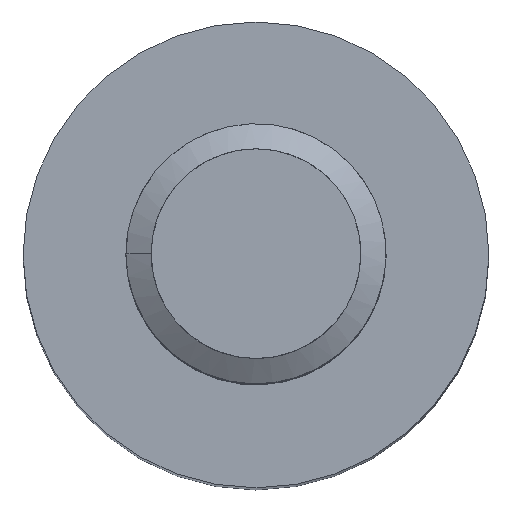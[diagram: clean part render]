
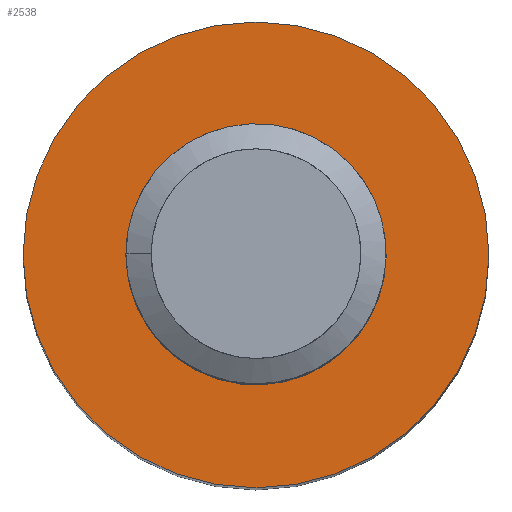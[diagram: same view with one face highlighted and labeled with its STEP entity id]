
A CAD part, top view. The second image highlights one B-rep face of the part: STEP entity #2538.
In plain terms, the highlighted planar face has unit normal (0, 0, 1).
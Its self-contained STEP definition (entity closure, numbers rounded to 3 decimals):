
#169 = CARTESIAN_POINT ( 'NONE',  ( -1.068, 2.579, 26.5 ) ) ;
#173 = CARTESIAN_POINT ( 'NONE',  ( 1.799, -1.383, 26.5 ) ) ;
#232 = CARTESIAN_POINT ( 'NONE',  ( 0.366, 2.629, 26.5 ) ) ;
#260 = CARTESIAN_POINT ( 'NONE',  ( 2.207, 0.83, 26.5 ) ) ;
#278 = CARTESIAN_POINT ( 'NONE',  ( -2.509, 1.238, 26.5 ) ) ;
#298 = ORIENTED_EDGE ( 'NONE', *, *, #2768, .F. ) ;
#299 = CARTESIAN_POINT ( 'NONE',  ( -2.628, -0.369, 26.5 ) ) ;
#314 = CARTESIAN_POINT ( 'NONE',  ( -1.586, -1.872, 26.5 ) ) ;
#376 = DIRECTION ( 'NONE',  ( 0., 0., 1. ) ) ;
#407 = CARTESIAN_POINT ( 'NONE',  ( -2.579, 1.068, 26.5 ) ) ;
#425 = CARTESIAN_POINT ( 'NONE',  ( 2.25, 0., 26.5 ) ) ;
#433 = VERTEX_POINT ( 'NONE', #169 ) ;
#473 = CARTESIAN_POINT ( 'NONE',  ( 2.191, -0.589, 26.5 ) ) ;
#516 = EDGE_CURVE ( 'NONE', #433, #3788, #1053, .T. ) ;
#527 = CARTESIAN_POINT ( 'NONE',  ( -2.421, 1.4, 26.5 ) ) ;
#536 = CARTESIAN_POINT ( 'NONE',  ( 2.274, 0.208, 26.5 ) ) ;
#558 = CARTESIAN_POINT ( 'NONE',  ( 0., -2.25, 26.5 ) ) ;
#559 = CARTESIAN_POINT ( 'NONE',  ( 1.128, 2.304, 26.5 ) ) ;
#561 = AXIS2_PLACEMENT_3D ( 'NONE', #1259, #652, #3660 ) ;
#581 = CARTESIAN_POINT ( 'NONE',  ( -1.704, 2.218, 26.5 ) ) ;
#589 = CARTESIAN_POINT ( 'NONE',  ( -0.415, -2.27, 26.5 ) ) ;
#599 = CARTESIAN_POINT ( 'NONE',  ( -2.695, 0.04, 26.5 ) ) ;
#620 = CARTESIAN_POINT ( 'NONE',  ( -1.068, 2.579, 26.5 ) ) ;
#625 = CARTESIAN_POINT ( 'NONE',  ( -1.907, -1.612, 26.5 ) ) ;
#652 = DIRECTION ( 'NONE',  ( 0., 0., 1. ) ) ;
#790 = CARTESIAN_POINT ( 'NONE',  ( 5., 0., 26.5 ) ) ;
#830 = CARTESIAN_POINT ( 'NONE',  ( -2.105, 1.842, 26.5 ) ) ;
#841 = CARTESIAN_POINT ( 'NONE',  ( -1.847, 2.101, 26.5 ) ) ;
#887 = CARTESIAN_POINT ( 'NONE',  ( -0.828, -2.208, 26.5 ) ) ;
#899 = VERTEX_POINT ( 'NONE', #407 ) ;
#1053 = B_SPLINE_CURVE_WITH_KNOTS ( 'NONE', 3,
 ( #2662, #2633, #3549, #3283, #3910, #232, #2943, #2064, #559, #3581, #2344, #1141, #3253, #3240, #260, #1455, #536, #1429 ),
 .UNSPECIFIED., .F., .F.,
 ( 4, 2, 2, 2, 2, 2, 2, 2, 4 ),
 ( 0., 0.001, 0.001, 0.002, 0.002, 0.003, 0.004, 0.004, 0.005 ),
 .UNSPECIFIED. ) ;
#1072 = CARTESIAN_POINT ( 'NONE',  ( 2.25, -0.295, 26.5 ) ) ;
#1083 = EDGE_LOOP ( 'NONE', ( #3649, #2563, #298, #3663 ) ) ;
#1128 = CARTESIAN_POINT ( 'NONE',  ( -2.22, 1.702, 26.5 ) ) ;
#1141 = CARTESIAN_POINT ( 'NONE',  ( 1.871, 1.588, 26.5 ) ) ;
#1230 = CARTESIAN_POINT ( 'NONE',  ( -2.571, -0.567, 26.5 ) ) ;
#1259 = CARTESIAN_POINT ( 'NONE',  ( 0., 0., 26.5 ) ) ;
#1314 = CIRCLE ( 'NONE', #561, 5. ) ;
#1318 = CARTESIAN_POINT ( 'NONE',  ( 0., 0., 26.5 ) ) ;
#1429 = CARTESIAN_POINT ( 'NONE',  ( 2.25, 0., 26.5 ) ) ;
#1436 = CARTESIAN_POINT ( 'NONE',  ( 0.589, -2.191, 26.5 ) ) ;
#1455 = CARTESIAN_POINT ( 'NONE',  ( 2.27, 0.418, 26.5 ) ) ;
#1459 = FACE_OUTER_BOUND ( 'NONE', #2197, .T. ) ;
#1510 = CARTESIAN_POINT ( 'NONE',  ( -2.407, -0.951, 26.5 ) ) ;
#1726 = CARTESIAN_POINT ( 'NONE',  ( 0., -2.25, 26.5 ) ) ;
#1728 = EDGE_CURVE ( 'NONE', #899, #433, #3465, .T. ) ;
#1739 = CARTESIAN_POINT ( 'NONE',  ( 1.133, -1.966, 26.5 ) ) ;
#1805 = CARTESIAN_POINT ( 'NONE',  ( -1.027, -2.15, 26.5 ) ) ;
#1842 = CARTESIAN_POINT ( 'NONE',  ( -2.639, 0.868, 26.5 ) ) ;
#1843 = DIRECTION ( 'NONE',  ( 1., 0., 0. ) ) ;
#1892 = CARTESIAN_POINT ( 'NONE',  ( -5., 0., 26.5 ) ) ;
#1944 = DIRECTION ( 'NONE',  ( 1., 0., 0. ) ) ;
#1977 = CARTESIAN_POINT ( 'NONE',  ( 1.383, -1.799, 26.5 ) ) ;
#1999 = VERTEX_POINT ( 'NONE', #790 ) ;
#2043 = CARTESIAN_POINT ( 'NONE',  ( 0., -2.25, 26.5 ) ) ;
#2064 = CARTESIAN_POINT ( 'NONE',  ( 0.949, 2.408, 26.5 ) ) ;
#2126 = CARTESIAN_POINT ( 'NONE',  ( -1.406, -1.982, 26.5 ) ) ;
#2145 = EDGE_CURVE ( 'NONE', #3504, #899, #2234, .T. ) ;
#2197 = EDGE_LOOP ( 'NONE', ( #3755, #3266 ) ) ;
#2234 = B_SPLINE_CURVE_WITH_KNOTS ( 'NONE', 3,
 ( #2043, #3859, #589, #887, #1805, #2126, #314, #625, #2448, #3045, #1510, #1230, #299, #599, #2741, #3031, #1842, #2704 ),
 .UNSPECIFIED., .F., .F.,
 ( 4, 2, 2, 2, 2, 2, 2, 2, 4 ),
 ( 0., 0.001, 0.001, 0.002, 0.002, 0.003, 0.004, 0.004, 0.005 ),
 .UNSPECIFIED. ) ;
#2294 = CARTESIAN_POINT ( 'NONE',  ( 1.966, -1.133, 26.5 ) ) ;
#2314 = B_SPLINE_CURVE_WITH_KNOTS ( 'NONE', 3,
 ( #1726, #3219, #1436, #1739, #1977, #173, #2294, #473, #1072, #3193 ),
 .UNSPECIFIED., .F., .F.,
 ( 4, 2, 2, 2, 4 ),
 ( 0.75, 0.812, 0.875, 0.937, 1. ),
 .UNSPECIFIED. ) ;
#2344 = CARTESIAN_POINT ( 'NONE',  ( 1.611, 1.908, 26.5 ) ) ;
#2345 = VERTEX_POINT ( 'NONE', #1892 ) ;
#2368 = FACE_BOUND ( 'NONE', #1083, .T. ) ;
#2448 = CARTESIAN_POINT ( 'NONE',  ( -2.054, -1.46, 26.5 ) ) ;
#2538 = ADVANCED_FACE ( 'NONE', ( #1459, #2368 ), #3136, .T. ) ;
#2563 = ORIENTED_EDGE ( 'NONE', *, *, #516, .T. ) ;
#2633 = CARTESIAN_POINT ( 'NONE',  ( -0.868, 2.639, 26.5 ) ) ;
#2638 = CARTESIAN_POINT ( 'NONE',  ( -1.399, 2.422, 26.5 ) ) ;
#2652 = CARTESIAN_POINT ( 'NONE',  ( -2.579, 1.068, 26.5 ) ) ;
#2662 = CARTESIAN_POINT ( 'NONE',  ( -1.068, 2.579, 26.5 ) ) ;
#2704 = CARTESIAN_POINT ( 'NONE',  ( -2.579, 1.068, 26.5 ) ) ;
#2741 = CARTESIAN_POINT ( 'NONE',  ( -2.704, 0.25, 26.5 ) ) ;
#2768 = EDGE_CURVE ( 'NONE', #3504, #3788, #2314, .T. ) ;
#2943 = CARTESIAN_POINT ( 'NONE',  ( 0.564, 2.572, 26.5 ) ) ;
#2949 = CARTESIAN_POINT ( 'NONE',  ( -1.238, 2.509, 26.5 ) ) ;
#3031 = CARTESIAN_POINT ( 'NONE',  ( -2.676, 0.662, 26.5 ) ) ;
#3045 = CARTESIAN_POINT ( 'NONE',  ( -2.303, -1.13, 26.5 ) ) ;
#3067 = CARTESIAN_POINT ( 'NONE',  ( 0., 0., 26.5 ) ) ;
#3136 = PLANE ( 'NONE',  #3293 ) ;
#3193 = CARTESIAN_POINT ( 'NONE',  ( 2.25, 0., 26.5 ) ) ;
#3219 = CARTESIAN_POINT ( 'NONE',  ( 0.295, -2.25, 26.5 ) ) ;
#3240 = CARTESIAN_POINT ( 'NONE',  ( 2.149, 1.029, 26.5 ) ) ;
#3253 = CARTESIAN_POINT ( 'NONE',  ( 1.981, 1.409, 26.5 ) ) ;
#3266 = ORIENTED_EDGE ( 'NONE', *, *, #3765, .T. ) ;
#3283 = CARTESIAN_POINT ( 'NONE',  ( -0.252, 2.704, 26.5 ) ) ;
#3293 = AXIS2_PLACEMENT_3D ( 'NONE', #1318, #3748, #1944 ) ;
#3465 = B_SPLINE_CURVE_WITH_KNOTS ( 'NONE', 3,
 ( #2652, #278, #527, #1128, #830, #841, #581, #2638, #2949, #620 ),
 .UNSPECIFIED., .F., .F.,
 ( 4, 2, 2, 2, 4 ),
 ( 0., 0.001, 0.001, 0.002, 0.002 ),
 .UNSPECIFIED. ) ;
#3504 = VERTEX_POINT ( 'NONE', #558 ) ;
#3549 = CARTESIAN_POINT ( 'NONE',  ( -0.664, 2.676, 26.5 ) ) ;
#3551 = AXIS2_PLACEMENT_3D ( 'NONE', #3067, #376, #1843 ) ;
#3581 = CARTESIAN_POINT ( 'NONE',  ( 1.459, 2.055, 26.5 ) ) ;
#3649 = ORIENTED_EDGE ( 'NONE', *, *, #1728, .T. ) ;
#3660 = DIRECTION ( 'NONE',  ( 1., 0., 0. ) ) ;
#3663 = ORIENTED_EDGE ( 'NONE', *, *, #2145, .T. ) ;
#3664 = EDGE_CURVE ( 'NONE', #2345, #1999, #1314, .T. ) ;
#3748 = DIRECTION ( 'NONE',  ( 0., 0., 1. ) ) ;
#3755 = ORIENTED_EDGE ( 'NONE', *, *, #3664, .T. ) ;
#3765 = EDGE_CURVE ( 'NONE', #1999, #2345, #3822, .T. ) ;
#3788 = VERTEX_POINT ( 'NONE', #425 ) ;
#3822 = CIRCLE ( 'NONE', #3551, 5. ) ;
#3859 = CARTESIAN_POINT ( 'NONE',  ( -0.208, -2.274, 26.5 ) ) ;
#3910 = CARTESIAN_POINT ( 'NONE',  ( -0.041, 2.695, 26.5 ) ) ;
